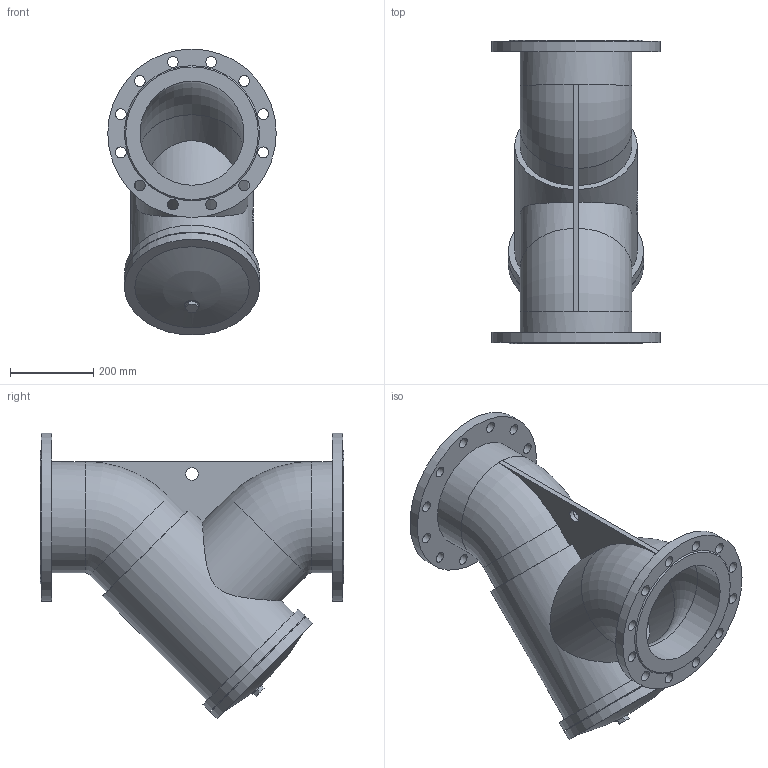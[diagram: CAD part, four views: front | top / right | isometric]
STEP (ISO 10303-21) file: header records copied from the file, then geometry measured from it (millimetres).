
FILE_DESCRIPTION(('STEP AP203'), '1');
FILE_NAME('Ôèëüòð ñåò÷àòûé ôëàíöåâûé 021Y DN250 PN16', '', ('UNSPECIFIED'), ('UNSPECIFIED'), 'ASCON STEP Converter 1.6', 'ASCON Math Kernel', '');
FILE_SCHEMA(('CONFIG_CONTROL_DESIGN'));
Length unit declared in the file: millimetre
Bounding box: 405 x 730 x 687.5 mm (x, y, z)
Volume: 36980921.5 mm3; surface area: 1919809.5 mm2
Topology: 1 solids, 1 shells, 92 faces, 218 edges, 141 vertices
Faces by surface type: cylinder 48, plane 37, torus 4, cone 2, sphere 1
Full cylindrical faces by diameter (mm): 26 x24, 30 x1, 35 x1, 250 x4, 268 x2, 295 x1, 313 x1, 325 x2, 405 x2
Entity records: 4588 total; most frequent: CARTESIAN_POINT 1696, DIRECTION 447, ORIENTED_EDGE 346, EDGE_LOOP 199, AXIS2_PLACEMENT_3D 194, EDGE_CURVE 173, VERTEX_POINT 140, FACE_BOUND 118
